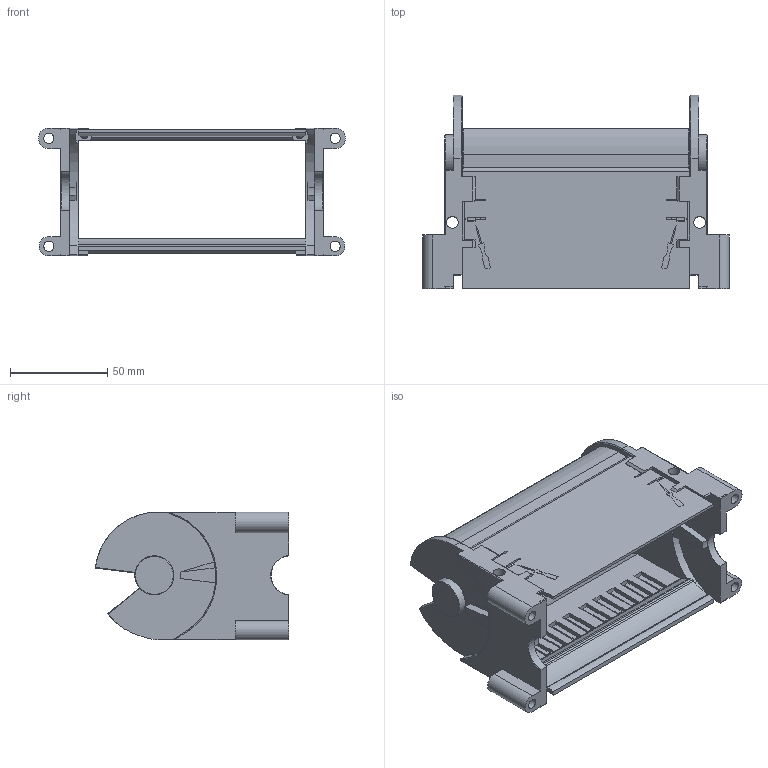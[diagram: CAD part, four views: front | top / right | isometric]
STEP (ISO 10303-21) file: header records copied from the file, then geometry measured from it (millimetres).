
FILE_DESCRIPTION((''),'2;1');
FILE_NAME('C:\Uebbing\PARAMETERKETTEN\KOLIBRI\Kol_65_135_5\KOLIBRI 65_135_5_SFA_Zapfen.stp','2011-11-02T15:14:22',('Uebbing'),(''),'Autodesk Inventor 10','Autodesk Inventor 10','');
FILE_SCHEMA(('AUTOMOTIVE_DESIGN { 1 0 10303 214 1 1 1 1 }'));
Length unit declared in the file: millimetre
Products named in the file (3): KOLIBRI 65_135_5_SFA_Zapfen; Kol_65_135_5 SFA Zapfen; Kol_65_135_5 Klappdeckel gesägt 02
Assembly tree (2 placements, depth 2):
  KOLIBRI 65_135_5_SFA_Zapfen
    Kol_65_135_5 SFA Zapfen
    Kol_65_135_5 Klappdeckel gesägt 02
Bounding box: 157.6 x 99.28 x 65.7 mm (x, y, z)
Volume: 115358.8 mm3; surface area: 77095.8 mm2
Topology: 2 solids, 2 shells, 655 faces, 1806 edges, 1157 vertices
Faces by surface type: plane 264, bspline 251, cylinder 113, torus 21, cone 4, sphere 2
Full cylindrical faces by diameter (mm): 2.514 x1, 4 x3, 4.414 x1, 5.2 x2, 6 x1, 20 x1
Entity records: 22426 total; most frequent: CARTESIAN_POINT 6351, ORIENTED_EDGE 3542, DIRECTION 2980, EDGE_CURVE 1771, VECTOR 1284, LINE 1284, VERTEX_POINT 1146, AXIS2_PLACEMENT_3D 848
